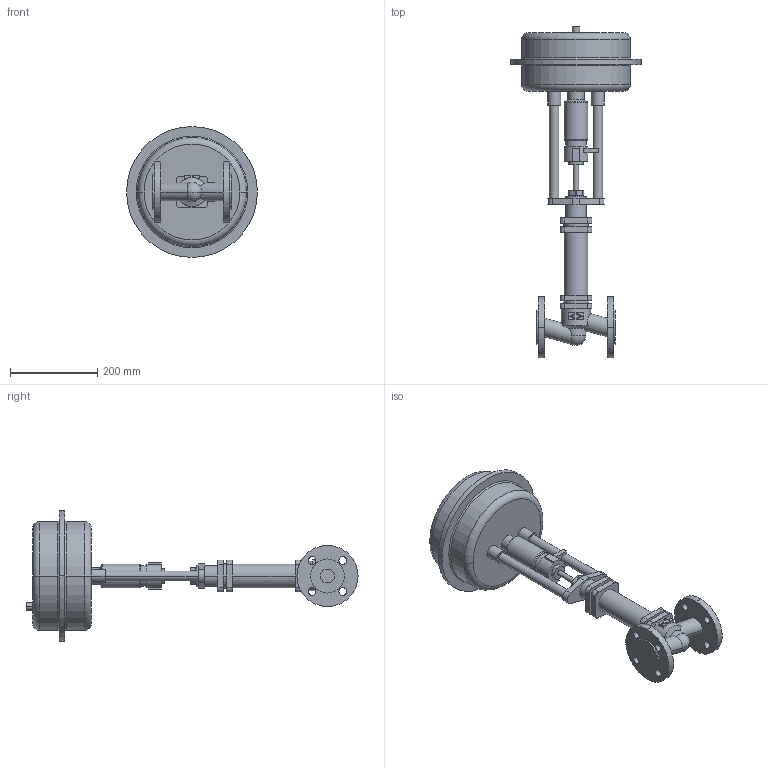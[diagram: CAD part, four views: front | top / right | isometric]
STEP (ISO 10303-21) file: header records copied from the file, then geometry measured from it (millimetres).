
FILE_DESCRIPTION(('OneSpaceDesigner STEP Export'),'2;1');
FILE_NAME('c000002077.stp','2005-12-12T11:15:03',(''),(''),'OneSpace Designer STEP processor for AP203 (Solid Model)','OneSpace Designer 13.20A 18-Aug-2005 (C) CoCreate Software GmbH','');
FILE_SCHEMA(('CONFIG_CONTROL_DESIGN'));
Length unit declared in the file: millimetre
Products named in the file (1): 1
Bounding box: 300 x 761.1 x 300 mm (x, y, z)
Volume: 8939900 mm3; surface area: 491659.3 mm2
Topology: 1 solids, 1 shells, 215 faces, 532 edges, 348 vertices
Faces by surface type: cylinder 102, plane 89, torus 16, cone 6, sphere 2
Entity records: 6047 total; most frequent: CARTESIAN_POINT 1172, ORIENTED_EDGE 1060, DIRECTION 915, EDGE_CURVE 530, VERTEX_POINT 348, AXIS2_PLACEMENT_3D 328, EDGE_LOOP 266, VECTOR 259
